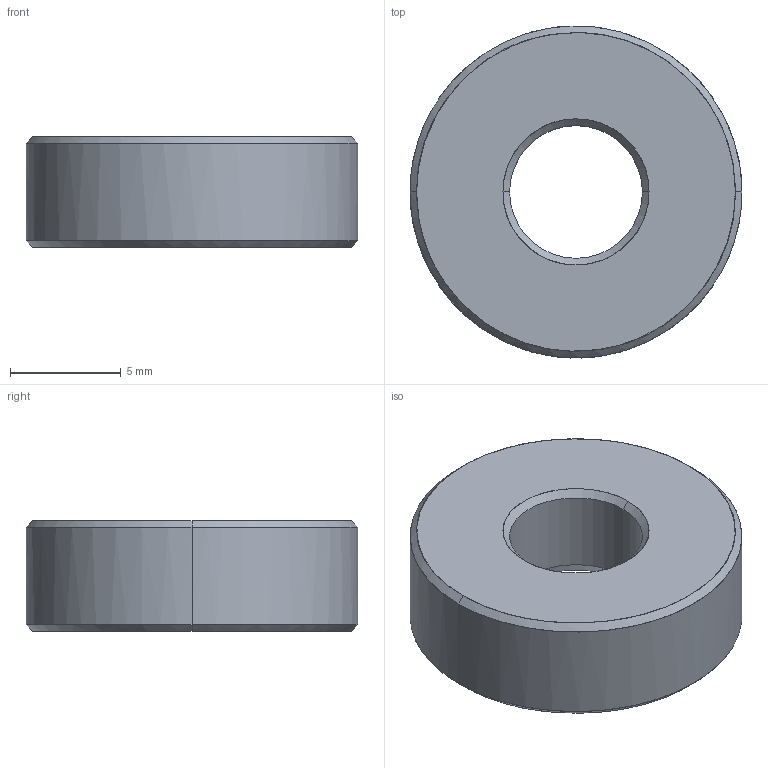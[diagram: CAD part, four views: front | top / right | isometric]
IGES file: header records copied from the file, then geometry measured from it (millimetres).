
Global section: file name: E:\UnigraphicsGraphicData\MISUMI_PRESS-PARTS\IGES\3d_t10_00124_r00.igs; native system: NX V5.0; preprocessor: UGS NX IGES V5.0; author: MISUMI; date: 20110105.163346; units: millimetre
Bounding box: 15 x 14.99 x 5 mm (x, y, z)
Surface area: 597.8 mm2 (no closed solid volume)
Topology: 0 solids, 0 shells, 14 faces, 80 edges, 80 vertices
Faces by surface type: bspline 14
